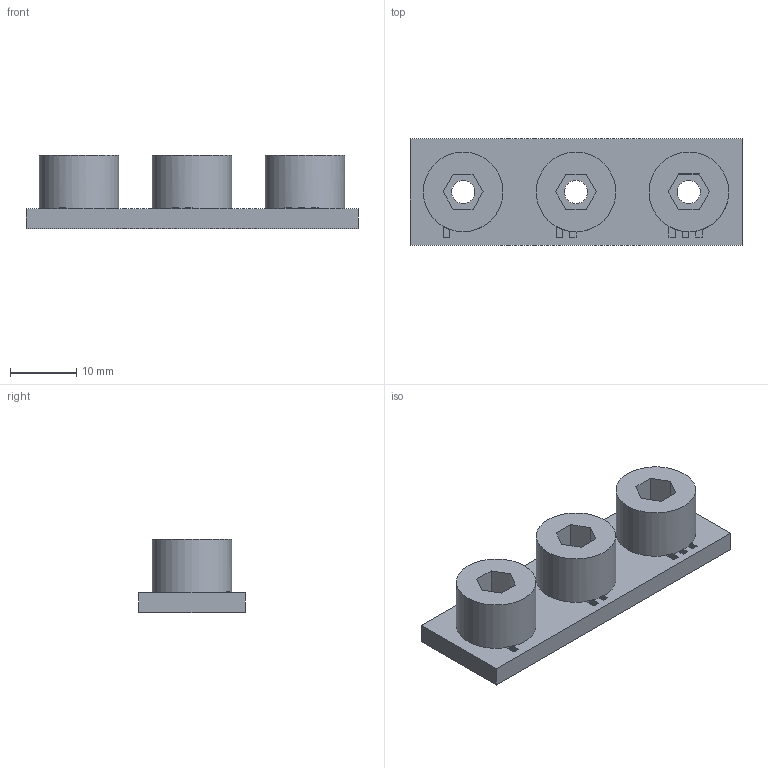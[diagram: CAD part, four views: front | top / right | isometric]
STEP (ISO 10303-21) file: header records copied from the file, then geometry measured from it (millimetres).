
FILE_DESCRIPTION(('Open CASCADE Model'),'2;1');
FILE_NAME('Open CASCADE Shape Model','2026-11-12T17:04:53',('Author'),( 'Open CASCADE'),'Open CASCADE STEP processor 7.8','Open CASCADE 7.8' ,'Unknown');
FILE_SCHEMA(('AUTOMOTIVE_DESIGN { 1 0 10303 214 1 1 1 1 }'));
Length unit declared in the file: millimetre
Products named in the file (1): Open CASCADE STEP translator 7.8 8
Bounding box: 50 x 16 x 11 mm (x, y, z)
Volume: 4428.8 mm3; surface area: 3437.4 mm2
Topology: 1 solids, 1 shells, 72 faces, 192 edges, 128 vertices
Faces by surface type: plane 66, cylinder 6
Full cylindrical faces by diameter (mm): 3.5 x3, 12 x3
Entity records: 4678 total; most frequent: CARTESIAN_POINT 945, DIRECTION 638, LINE 432, VECTOR 432, ORIENTED_EDGE 384, PCURVE 384, DEFINITIONAL_REPRESENTATION 384, EDGE_CURVE 192
